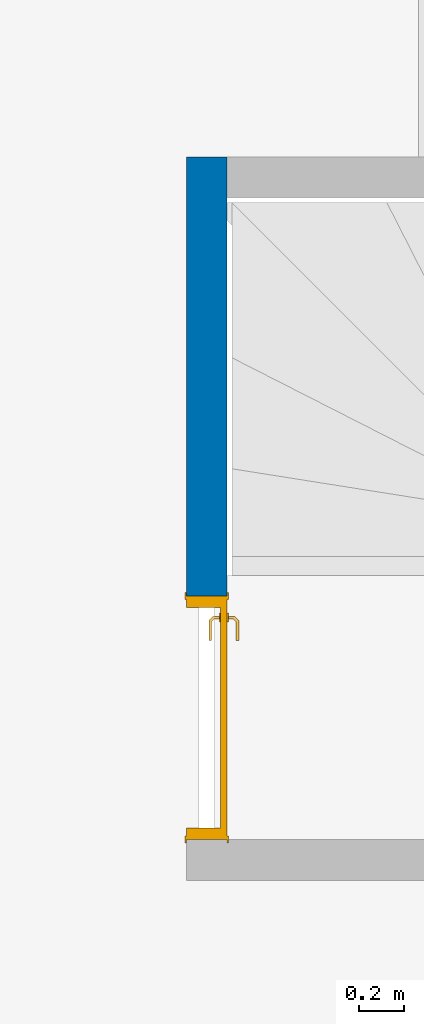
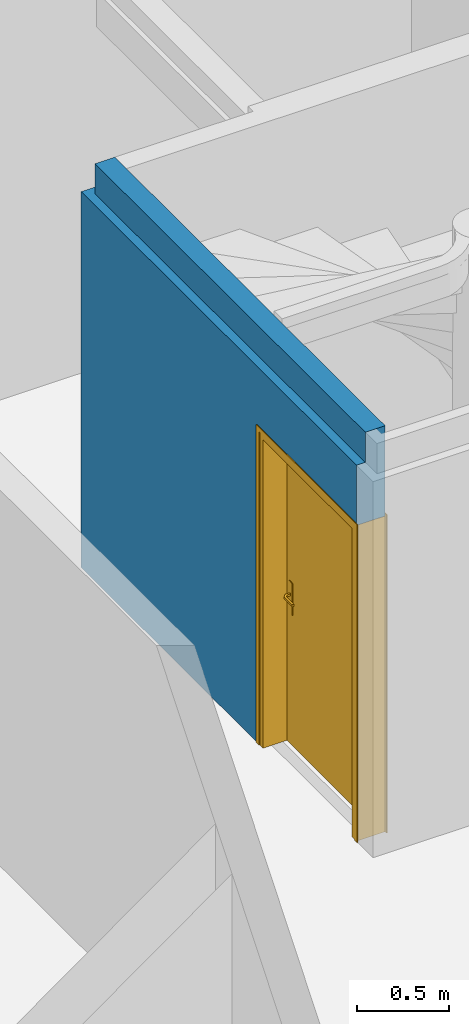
# One storey, part 16 of 30: 1 door, 1 wall, 1 opening.
"""IFC2X3 building model written with IfcOpenShell, lengths in centimetres."""

from ifc_helpers import new_model, entity, si_unit, converted_unit, derived_unit, direction, frame, frame_2d, origin, place, context, subcontext, project, spatial, rectangle, extrude, faceted_brep, source, transform, mapped, material, material_list, type_object, type_shapes, element, fill, save


model = new_model("IFC2X3")

# Units and contexts
model_context = context("Model", 3, precision=0.001, world=origin(), true_north=direction((6.12303176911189e-17, 1.0)))
body_context = subcontext(model_context, "Body", "Model", "MODEL_VIEW")
ifc_project = project(units=[si_unit("LENGTHUNIT", "METRE", prefix="CENTI"), si_unit("AREAUNIT", "SQUARE_METRE"), si_unit("VOLUMEUNIT", "CUBIC_METRE"), converted_unit("PLANEANGLEUNIT", "DEGREE", entity("IfcRatioMeasure", 0.0174532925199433), si_unit("PLANEANGLEUNIT", "RADIAN"), dimensions=[0, 0, 0, 0, 0, 0, 0]), si_unit("MASSUNIT", "GRAM", prefix="KILO"), derived_unit("MASSDENSITYUNIT", [(si_unit("MASSUNIT", "GRAM", prefix="KILO"), 1), (si_unit("LENGTHUNIT", "METRE"), -3)]), si_unit("TIMEUNIT", "SECOND"), si_unit("FREQUENCYUNIT", "HERTZ"), si_unit("THERMODYNAMICTEMPERATUREUNIT", "DEGREE_CELSIUS"), derived_unit("THERMALTRANSMITTANCEUNIT", [(si_unit("MASSUNIT", "GRAM", prefix="KILO"), 1), (si_unit("THERMODYNAMICTEMPERATUREUNIT", "KELVIN"), -1), (si_unit("TIMEUNIT", "SECOND"), -3)]), derived_unit("VOLUMETRICFLOWRATEUNIT", [(si_unit("LENGTHUNIT", "METRE"), 3), (si_unit("TIMEUNIT", "SECOND"), -1)]), si_unit("ELECTRICCURRENTUNIT", "AMPERE"), si_unit("ELECTRICVOLTAGEUNIT", "VOLT"), si_unit("POWERUNIT", "WATT"), si_unit("FORCEUNIT", "NEWTON"), si_unit("ILLUMINANCEUNIT", "LUX"), si_unit("LUMINOUSFLUXUNIT", "LUMEN"), si_unit("LUMINOUSINTENSITYUNIT", "CANDELA"), derived_unit("USERDEFINED", [(si_unit("MASSUNIT", "GRAM", prefix="KILO"), -1), (si_unit("LENGTHUNIT", "METRE"), -2), (si_unit("TIMEUNIT", "SECOND"), 3), (si_unit("LUMINOUSFLUXUNIT", "LUMEN"), 1)]), derived_unit("LINEARVELOCITYUNIT", [(si_unit("LENGTHUNIT", "METRE"), 1), (si_unit("TIMEUNIT", "SECOND"), -1)]), si_unit("PRESSUREUNIT", "PASCAL"), derived_unit("USERDEFINED", [(si_unit("LENGTHUNIT", "METRE"), -2), (si_unit("MASSUNIT", "GRAM", prefix="KILO"), 1), (si_unit("TIMEUNIT", "SECOND"), -2)])], contexts=[model_context])

# Site, building, storey
site_placement = place(None, origin())
site = spatial("IfcSite", under=ifc_project, at=site_placement, Name="Default", CompositionType="ELEMENT")
building_placement = place(site_placement, origin())
building = spatial("IfcBuilding", under=site, at=building_placement, Name="CAGE 03", CompositionType="ELEMENT")
storey_placement = place(building_placement, frame((0.0, 0.0, 610.0)))
storey = spatial("IfcBuildingStorey", under=building, at=storey_placement, Name="R+2", CompositionType="ELEMENT", Elevation=610.0)

# Wall, opening, door
wall_type = type_object("IfcWallType", Name="Mur de base:premur 18", PredefinedType="NOTDEFINED")
wall_placement = place(storey_placement, frame((10199.3658201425, 4650.66066607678, 0.0), z_axis=(0.0, 0.0, 1.0), x_axis=(0.0, 1.0, 0.0)))
wall = element("IfcWall", 1, at=wall_placement, inside=storey, type_object=wall_type, Name="Mur de base:premur 18", ObjectType="Mur de base:premur 18", context=body_context, shape_type="Brep", body=[
    faceted_brep([(107.0, -9.0, 0.0), (282.0, -9.0, 0.0), (294.500000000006, -9.0, 0.0), (300.0, -9.0, 0.0), (300.0, -9.0, 250.0), (294.500000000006, -9.0, 250.0), (294.500000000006, -9.0, 270.0), (282.0, -9.0, 270.0), (107.0, -9.0, 270.0), (0.0, -9.0, 270.0), (0.0, -9.0, 210.0), (107.0, -9.0, 210.0), (300.0, 9.0, 0.0), (107.0, 9.0, 0.0), (107.0, 9.0, 210.0), (0.0, 9.0, 210.0), (0.0, 9.0, 250.0), (300.0, 9.0, 250.0), (294.500000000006, 3.49999999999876, 270.0), (0.0, 3.49999999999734, 270.0), (0.0, -3.49999999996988, 270.0), (0.0, 3.49999999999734, 250.0), (294.500000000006, 3.49999999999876, 250.0)], [[[0, 1, 2, 3, 4, 5, 6, 7, 8, 9, 10, 11]], [[12, 13, 14, 15, 16, 17]], [[12, 3, 2, 1, 0, 13]], [[9, 8, 7, 6, 18, 19, 20]], [[3, 12, 17, 4]], [[10, 9, 20, 19, 21, 16, 15]], [[11, 10, 15, 14]], [[0, 11, 14, 13]], [[21, 22, 5, 4, 17, 16]], [[22, 18, 6, 5]], [[18, 22, 21, 19]]]),
])
opening_placement = place(wall_placement, frame((107.0, 9.0, 0.0)))
opening = element("IfcOpeningElement", 2, at=opening_placement, cuts=wall, Name="Int. Simple:HB103:1", ObjectType="Opening", context=body_context, shape_type="SweptSolid", body=[
    extrude(rectangle(XDim=210.000000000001, YDim=107.0, at=frame_2d((105.000000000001, 53.4999999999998), x_axis=(1.0, 0.0))), frame((0.0, 0.0, 0.0), z_axis=(0.0, -1.0, 0.0), x_axis=(0.0, 0.0, 1.0)), (0.0, 0.0, 1.0), 18.0),
])
ifc_material_1 = material(Name="Finition Peinture - Blanc satiné")
ifc_material_2 = material(Name="Bois - Panneau de porte")
ifc_material_3 = material(Name="Bois - Cadre de porte")
ifc_material_list_1 = material_list([ifc_material_1, ifc_material_2, ifc_material_3])
ifc_material_list_2 = material_list([ifc_material_1, ifc_material_2, ifc_material_3])
door_style = type_object("IfcDoorStyle", Name="HB103", ConstructionType="NOTDEFINED", OperationType="SINGLE_SWING_RIGHT", ParameterTakesPrecedence=False, Sizeable=False, material=ifc_material_list_2)
shared_shape = source(origin(), body_context, "Body", "Brep", [
    faceted_brep([(106.500000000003, -0.500000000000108, 87.0), (106.500000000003, -0.500000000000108, 108.0), (105.535276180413, -0.500000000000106, 108.399601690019), (104.500000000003, -0.500000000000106, 108.535898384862), (103.464723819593, -0.500000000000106, 108.399601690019), (102.500000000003, -0.500000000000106, 108.0), (102.500000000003, -0.500000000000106, 87.0), (103.464723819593, -0.500000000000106, 86.6003983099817), (104.500000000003, -0.500000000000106, 86.464101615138), (105.535276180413, -0.500000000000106, 86.6003983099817), (106.500000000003, 0.0, 108.0), (106.500000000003, 0.0, 87.0), (105.535276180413, 0.0, 86.6003983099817), (104.500000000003, 0.0, 86.464101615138), (103.464723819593, 0.0, 86.6003983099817), (102.500000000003, 0.0, 87.0), (102.500000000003, 0.0, 108.0), (103.464723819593, 0.0, 108.399601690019), (104.500000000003, 0.0, 108.535898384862), (105.535276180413, 0.0, 108.399601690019)], [[[0, 1, 2, 3, 4, 5, 6, 7, 8, 9]], [[10, 11, 12, 13, 14, 15, 16, 17, 18, 19]], [[9, 12, 11, 0]], [[8, 13, 12, 9]], [[7, 14, 13, 8]], [[7, 6, 15, 14]], [[15, 6, 5, 16]], [[4, 17, 16, 5]], [[3, 18, 17, 4]], [[2, 19, 18, 3]], [[2, 1, 10, 19]], [[11, 10, 1, 0]]]),
    faceted_brep([(106.500000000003, 3.0, 87.0), (106.500000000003, 3.0, 108.0), (105.535276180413, 3.0, 108.399601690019), (104.500000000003, 3.0, 108.535898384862), (103.464723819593, 3.0, 108.399601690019), (102.500000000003, 3.0, 108.0), (102.500000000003, 3.0, 87.0), (103.464723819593, 3.0, 86.6003983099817), (104.500000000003, 3.0, 86.464101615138), (105.535276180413, 3.0, 86.6003983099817), (104.500000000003, 3.49999999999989, 108.535898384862), (105.535276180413, 3.49999999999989, 108.399601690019), (106.500000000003, 3.49999999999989, 108.0), (106.500000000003, 3.49999999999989, 87.0), (105.535276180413, 3.49999999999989, 86.6003983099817), (104.500000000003, 3.49999999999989, 86.464101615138), (103.464723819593, 3.49999999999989, 86.6003983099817), (102.500000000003, 3.49999999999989, 87.0), (102.500000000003, 3.49999999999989, 108.0), (103.464723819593, 3.49999999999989, 108.399601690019)], [[[0, 1, 2, 3, 4, 5, 6, 7, 8, 9]], [[10, 11, 12, 13, 14, 15, 16, 17, 18, 19]], [[4, 19, 18, 5]], [[3, 10, 19, 4]], [[2, 11, 10, 3]], [[2, 1, 12, 11]], [[13, 12, 1, 0]], [[9, 14, 13, 0]], [[8, 15, 14, 9]], [[7, 16, 15, 8]], [[7, 6, 17, 16]], [[17, 6, 5, 18]]]),
    faceted_brep([(104.297470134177, -0.500000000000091, 100.778044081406), (104.702529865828, -0.500000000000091, 100.778044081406), (105.100000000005, -0.500000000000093, 100.699999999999), (105.100000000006, -0.500000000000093, 99.299999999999), (104.702529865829, -0.500000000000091, 99.2219559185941), (104.297470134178, -0.500000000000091, 99.2219559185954), (103.9, -0.500000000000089, 99.3000000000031), (103.9, -0.500000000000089, 100.7), (104.702529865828, -3.1004575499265, 100.778044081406), (105.100000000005, -3.26509507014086, 100.7), (104.297470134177, -2.93267631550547, 100.778044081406), (102.92986024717, -4.30028620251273, 100.778044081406), (103.097641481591, -4.70534593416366, 100.778044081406), (103.9, -2.76803879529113, 100.7), (103.9, -2.76803879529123, 99.3000000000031), (104.297470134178, -2.93267631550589, 99.2219559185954), (104.702529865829, -3.10045754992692, 99.2219559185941), (103.097641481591, -4.70534593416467, 99.2219559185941), (102.92986024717, -4.30028620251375, 99.2219559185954), (105.100000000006, -3.26509507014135, 99.299999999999), (103.262279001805, -5.10281606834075, 100.7), (102.765222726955, -3.90281606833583, 100.7), (102.765222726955, -3.90281606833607, 99.3000000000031), (103.262279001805, -5.10281606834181, 99.299999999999), (94.4981359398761, -5.1028160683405, 100.7), (94.4981359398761, -4.7053459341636, 100.778044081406), (94.4981359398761, -4.30028620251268, 100.778044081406), (94.4981359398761, -3.90281606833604, 100.699999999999), (94.4981359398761, -3.90281606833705, 99.3000000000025), (94.4981359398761, -4.30028620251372, 99.2219559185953), (94.4981359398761, -4.70534593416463, 99.2219559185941), (94.4981359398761, -5.10281606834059, 99.2999999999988), (98.7139980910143, -4.50281606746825, 100.78786867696), (99.2692302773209, -5.10281606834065, 100.7), (98.6316793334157, -3.90281606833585, 100.7), (98.6316793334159, -3.90281606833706, 99.3000000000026), (98.7139981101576, -4.50281607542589, 99.2121313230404), (99.2692299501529, -5.10281606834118, 99.2999999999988)], [[[0, 1, 2, 3, 4, 5, 6, 7]], [[2, 1, 8, 9]], [[1, 0, 10, 11, 12, 8]], [[0, 7, 13, 10]], [[14, 13, 7, 6]], [[5, 15, 14, 6]], [[5, 4, 16, 17, 18, 15]], [[3, 19, 16, 4]], [[9, 19, 3, 2]], [[9, 8, 12, 20]], [[10, 13, 21, 11]], [[22, 21, 13, 14]], [[14, 15, 18, 22]], [[16, 19, 23, 17]], [[20, 23, 19, 9]], [[24, 25, 26, 27, 28, 29, 30, 31]], [[32, 25, 33]], [[33, 25, 24]], [[33, 20, 12]], [[11, 34, 32]], [[34, 11, 21]], [[27, 26, 34]], [[32, 26, 25]], [[32, 34, 26]], [[32, 33, 12]], [[11, 32, 12]], [[21, 22, 35, 28, 27, 34]], [[36, 29, 35]], [[30, 36, 37]], [[18, 35, 22]], [[29, 28, 35]], [[30, 37, 31]], [[37, 17, 23]], [[36, 17, 37]], [[36, 18, 17]], [[36, 35, 18]], [[29, 36, 30]], [[23, 20, 33, 24, 31, 37]]]),
    faceted_brep([(104.297470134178, 3.49999999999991, 99.2219559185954), (104.702529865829, 3.49999999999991, 99.2219559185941), (105.100000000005, 3.4999999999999, 99.2999999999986), (105.100000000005, 3.4999999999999, 100.7), (104.702529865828, 3.49999999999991, 100.778044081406), (104.297470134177, 3.49999999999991, 100.778044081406), (103.9, 3.49999999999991, 100.7), (103.900000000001, 3.49999999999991, 99.3000000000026), (103.9, 5.74852045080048, 100.7), (103.9, 5.74852045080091, 99.3000000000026), (104.297470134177, 5.91315797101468, 100.778044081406), (104.702529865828, 6.08093920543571, 100.778044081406), (103.083890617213, 7.69957845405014, 100.778044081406), (102.916109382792, 7.29451872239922, 100.778044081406), (105.100000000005, 6.24557672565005, 100.7), (105.100000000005, 6.2455767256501, 99.2999999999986), (104.702529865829, 6.08093920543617, 99.2219559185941), (104.297470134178, 5.91315797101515, 99.2219559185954), (102.916109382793, 7.29451872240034, 99.2219559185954), (103.083890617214, 7.69957845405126, 99.2219559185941), (102.751471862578, 6.89704858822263, 100.7), (102.751471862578, 6.89704858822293, 99.3000000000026), (103.248528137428, 8.09704858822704, 100.7), (103.248528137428, 8.09704858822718, 99.2999999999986), (94.4954216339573, 7.29451872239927, 100.778044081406), (94.4954216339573, 7.6995784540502, 100.778044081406), (94.4954216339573, 8.0970485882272, 100.7), (94.4954216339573, 8.09704858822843, 99.299999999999), (94.4954216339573, 7.6995784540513, 99.2219559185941), (94.4954216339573, 7.29451872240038, 99.2219559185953), (94.4954216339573, 6.89704858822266, 99.3000000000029), (94.4954216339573, 6.89704858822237, 100.7), (98.6234467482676, 6.89704858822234, 100.7), (98.6234479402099, 6.89704858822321, 99.3000000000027), (98.7057655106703, 7.4970485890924, 100.78786867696), (99.255479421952, 8.09704858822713, 100.7), (99.2554794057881, 8.09704858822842, 99.299999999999), (98.7057654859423, 7.49704858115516, 99.2121313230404)], [[[0, 1, 2, 3, 4, 5, 6, 7]], [[8, 9, 7, 6]], [[5, 10, 8, 6]], [[5, 4, 11, 12, 13, 10]], [[3, 14, 11, 4]], [[14, 3, 2, 15]], [[2, 1, 16, 15]], [[1, 0, 17, 18, 19, 16]], [[0, 7, 9, 17]], [[20, 21, 9, 8]], [[8, 10, 13, 20]], [[14, 22, 12, 11]], [[23, 22, 14, 15]], [[15, 16, 19, 23]], [[17, 9, 21, 18]], [[24, 25, 26, 27, 28, 29, 30, 31]], [[20, 32, 31, 30, 33, 21]], [[34, 24, 32]], [[25, 34, 35]], [[13, 32, 20]], [[24, 31, 32]], [[25, 35, 26]], [[35, 12, 22]], [[34, 12, 35]], [[34, 13, 12]], [[34, 32, 13]], [[24, 34, 25]], [[22, 23, 36, 27, 26, 35]], [[37, 28, 36]], [[36, 28, 27]], [[36, 23, 19]], [[18, 33, 37]], [[33, 18, 21]], [[30, 29, 33]], [[37, 29, 28]], [[37, 33, 29]], [[37, 36, 19]], [[18, 37, 19]]]),
    faceted_brep([(110.500000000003, 3.0, 206.5), (110.500000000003, 3.0, 0.0), (10.5000000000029, 3.0, 0.0), (10.5000000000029, 3.0, 206.5), (110.500000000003, 0.0, 206.5), (10.5000000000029, 0.0, 206.5), (10.5000000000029, 0.0, 0.0), (110.500000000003, 0.0, 0.0)], [[[0, 1, 2, 3]], [[4, 5, 6, 7]], [[3, 5, 4, 0]], [[2, 6, 5, 3]], [[1, 7, 6, 2]], [[0, 4, 7, 1]]]),
    faceted_brep([(114.0, 0.0, 0.0), (110.500000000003, 0.0, 0.0), (110.500000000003, 3.0, 0.0), (109.0, 3.0, 0.0), (109.0, 18.0, 0.0), (114.0, 18.0, 0.0), (114.0, 18.0, 210.0), (114.0, 0.0, 210.0), (109.0, 18.0, 205.0), (12.0, 18.0, 205.0), (12.0, 18.0, 0.0), (7.0, 18.0, 0.0), (7.0, 18.0, 210.0), (109.0, 3.0, 205.0), (110.500000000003, 3.0, 206.5), (10.5000000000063, 3.0, 206.5), (10.5000000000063, 3.0, 0.0), (12.0, 3.0, 0.0), (12.0, 3.0, 205.0), (110.500000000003, 0.0, 206.5), (7.0, 0.0, 210.0), (7.0, 0.0, 0.0), (10.5000000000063, 0.0, 0.0), (10.5000000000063, 0.0, 206.5)], [[[0, 1, 2, 3, 4, 5]], [[5, 6, 7, 0]], [[4, 8, 9, 10, 11, 12, 6, 5]], [[3, 13, 8, 4]], [[2, 14, 15, 16, 17, 18, 13, 3]], [[1, 19, 14, 2]], [[0, 7, 20, 21, 22, 23, 19, 1]], [[12, 11, 21, 20]], [[21, 11, 10, 17, 16, 22]], [[18, 17, 10, 9]], [[23, 22, 16, 15]], [[6, 12, 20, 7]], [[13, 18, 9, 8]], [[19, 23, 15, 14]]]),
    faceted_brep([(112.500000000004, 18.0, 0.0), (112.500000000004, 18.5000000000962, 0.0), (115.500000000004, 18.5000000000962, 0.0), (115.500000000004, 18.0, 0.0), (115.500000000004, 18.0, 211.500000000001), (5.50000000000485, 18.0, 211.500000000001), (5.50000000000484, 18.0, 0.0), (8.50000000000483, 18.0, 0.0), (8.50000000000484, 18.0, 208.500000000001), (112.500000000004, 18.0, 208.500000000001), (115.500000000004, 18.5000000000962, 211.500000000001), (112.500000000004, 18.5000000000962, 208.500000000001), (8.50000000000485, 18.5000000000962, 208.500000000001), (8.50000000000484, 18.5000000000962, 0.0), (5.50000000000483, 18.5000000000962, 0.0), (5.50000000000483, 18.5000000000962, 211.500000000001)], [[[0, 1, 2, 3]], [[3, 4, 5, 6, 7, 8, 9, 0]], [[2, 10, 4, 3]], [[1, 11, 12, 13, 14, 15, 10, 2]], [[0, 9, 11, 1]], [[7, 6, 14, 13]], [[8, 7, 13, 12]], [[15, 14, 6, 5]], [[10, 15, 5, 4]], [[9, 8, 12, 11]]]),
    faceted_brep([(115.500000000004, -0.5, 0.0), (115.500000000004, -0.5, 211.500000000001), (5.50000000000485, -0.5, 211.500000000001), (5.50000000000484, -0.5, 0.0), (8.50000000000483, -0.5, 0.0), (8.50000000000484, -0.5, 208.500000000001), (112.500000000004, -0.5, 208.500000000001), (112.500000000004, -0.5, 0.0), (115.500000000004, 0.0, 0.0), (115.500000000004, 0.0, 211.500000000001), (112.500000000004, 0.0, 0.0), (112.500000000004, 0.0, 208.500000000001), (8.50000000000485, 0.0, 208.500000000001), (8.50000000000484, 0.0, 0.0), (5.50000000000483, 0.0, 0.0), (5.50000000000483, 0.0, 211.500000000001)], [[[0, 1, 2, 3, 4, 5, 6, 7]], [[8, 9, 1, 0]], [[10, 11, 12, 13, 14, 15, 9, 8]], [[7, 6, 11, 10]], [[5, 4, 13, 12]], [[15, 14, 3, 2]], [[9, 15, 2, 1]], [[6, 5, 12, 11]], [[4, 3, 14, 13]], [[7, 10, 8, 0]]]),
])
type_shapes(door_style, [shared_shape])
door_placement = place(opening_placement, frame((-114.0, -18.0, 0.0)))
door = element("IfcDoor", 3, at=door_placement, inside=storey, type_object=door_style, material=ifc_material_list_1, Name="Int. Simple:HB103", ObjectType="HB103", OverallHeight=210.000000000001, OverallWidth=107.0, context=body_context, shape_type="MappedRepresentation", body=[
    mapped(shared_shape, transform((0.0, 0.0, 0.0), scale=1.0)),
])
fill(opening, door)

save(model, "model.ifc")
